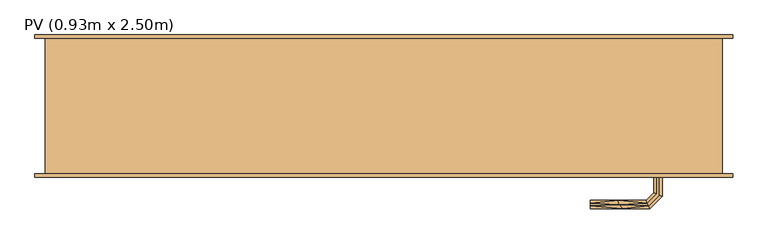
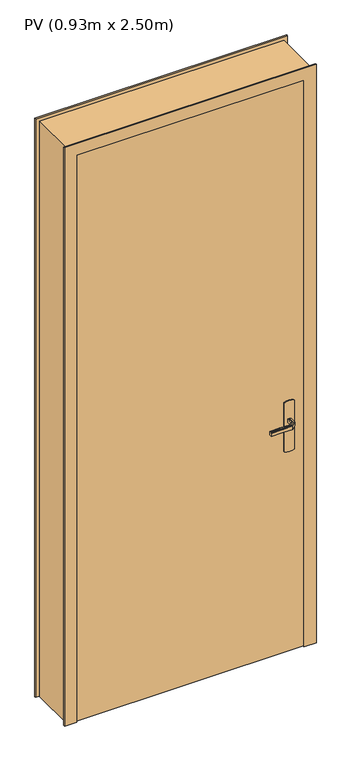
"""IFC4 building model written with IfcOpenShell, lengths in millimetres: door geometry, PV (0.93m x 2.50m)."""

from ifc_helpers import new_model, si_unit, frame, origin, origin_with_axes, place, context, project, spatial, polyline, outline, extrude, faceted_brep, source, transform, mapped, element, save


def pv_0_93m_x_2_50m_6ed395ac(model_context):
    return source(origin(), model_context, "Body", "SolidModel", [
        faceted_brep([(972.9747013, 45.0, 992.2195592), (977.0252987, 45.0, 992.2195592), (981.0, 45.0, 993.0), (981.0, 45.0, 1007.0), (977.0252987, 45.0, 1007.7804408), (972.9747013, 45.0, 1007.7804408), (969.0, 45.0, 1007.0), (969.0, 45.0, 993.0), (969.0, 67.4852045, 1007.0), (969.0, 67.4852045, 993.0), (972.9747013, 69.1315797, 1007.7804408), (977.0252987, 70.8093921, 1007.7804408), (960.8389062, 86.9957845, 1007.7804408), (959.1610938, 82.9451872, 1007.7804408), (981.0, 72.4557673, 1007.0), (981.0, 72.4557673, 993.0), (977.0252987, 70.8093921, 992.2195592), (972.9747013, 69.1315797, 992.2195592), (959.1610938, 82.9451872, 992.2195592), (960.8389062, 86.9957845, 992.2195592), (957.5147186, 78.9704859, 1007.0), (957.5147186, 78.9704859, 993.0), (962.4852814, 90.9704859, 1007.0), (962.4852814, 90.9704859, 993.0), (874.9542163, 82.9451872, 1007.7804408), (874.9542163, 86.9957845, 1007.7804408), (874.9542163, 90.9704859, 1007.0), (874.9542163, 90.9704859, 993.0), (874.9542163, 86.9957845, 992.2195592), (874.9542163, 82.9451872, 992.2195592), (874.9542163, 78.9704859, 993.0), (874.9542163, 78.9704859, 1007.0), (916.2344675, 78.9704859, 1007.0), (916.2344794, 78.9704859, 993.0), (917.0576551, 84.9704859, 1007.8786868), (922.5547942, 90.9704859, 1007.0), (922.5547957, 90.9704859, 993.0), (917.0576549, 84.9704858, 992.1213132)], [[[0, 1, 2, 3, 4, 5, 6, 7]], [[8, 9, 7, 6]], [[5, 10, 8, 6]], [[5, 4, 11, 12, 13, 10]], [[3, 14, 11, 4]], [[14, 3, 2, 15]], [[2, 1, 16, 15]], [[1, 0, 17, 18, 19, 16]], [[0, 7, 9, 17]], [[20, 21, 9, 8]], [[8, 10, 13, 20]], [[14, 22, 12, 11]], [[23, 22, 14, 15]], [[15, 16, 19, 23]], [[17, 9, 21, 18]], [[24, 25, 26, 27, 28, 29, 30, 31]], [[21, 20, 32, 31, 30, 33]], [[34, 24, 32]], [[25, 34, 35]], [[13, 32, 20]], [[24, 31, 32]], [[25, 35, 26]], [[35, 12, 22]], [[34, 12, 35]], [[34, 13, 12]], [[34, 32, 13]], [[24, 34, 25]], [[22, 23, 36, 27, 26, 35]], [[37, 28, 36]], [[36, 28, 27]], [[36, 23, 19]], [[18, 33, 37]], [[33, 18, 21]], [[30, 29, 33]], [[37, 29, 28]], [[37, 33, 29]], [[37, 36, 19]], [[18, 37, 19]]]),
        faceted_brep([(972.9747013, -5.0, 1007.7804408), (977.0252987, -5.0, 1007.7804408), (981.0, -5.0, 1007.0), (981.0, -5.0, 993.0), (977.0252987, -5.0, 992.2195592), (972.9747013, -5.0, 992.2195592), (969.0, -5.0, 993.0), (969.0, -5.0, 1007.0), (977.0252987, -31.0045755, 1007.7804408), (981.0, -32.6509507, 1007.0), (972.9747013, -29.3267632, 1007.7804408), (959.2986025, -43.002862, 1007.7804408), (960.9764148, -47.0534593, 1007.7804408), (969.0, -27.680388, 1007.0), (969.0, -27.680388, 993.0), (972.9747013, -29.3267632, 992.2195592), (977.0252987, -31.0045755, 992.2195592), (960.9764148, -47.0534593, 992.2195592), (959.2986025, -43.002862, 992.2195592), (981.0, -32.6509507, 993.0), (962.62279, -51.0281607, 1007.0), (957.6522273, -39.0281607, 1007.0), (957.6522273, -39.0281607, 993.0), (962.62279, -51.0281607, 993.0), (874.9813594, -51.0281607, 1007.0), (874.9813594, -47.0534593, 1007.7804408), (874.9813594, -43.002862, 1007.7804408), (874.9813594, -39.0281607, 1007.0), (874.9813594, -39.0281607, 993.0), (874.9813594, -43.002862, 992.2195592), (874.9813594, -47.0534593, 992.2195592), (874.9813594, -51.0281607, 993.0), (917.1399809, -45.0281607, 1007.8786868), (922.6923028, -51.0281607, 1007.0), (916.3167933, -39.0281607, 1007.0), (916.3167933, -39.0281607, 993.0), (917.1399811, -45.0281608, 992.1213132), (922.6923104, -51.0281607, 993.0)], [[[0, 1, 2, 3, 4, 5, 6, 7]], [[2, 1, 8, 9]], [[1, 0, 10, 11, 12, 8]], [[0, 7, 13, 10]], [[14, 13, 7, 6]], [[5, 15, 14, 6]], [[5, 4, 16, 17, 18, 15]], [[3, 19, 16, 4]], [[9, 19, 3, 2]], [[9, 8, 12, 20]], [[10, 13, 21, 11]], [[22, 21, 13, 14]], [[14, 15, 18, 22]], [[16, 19, 23, 17]], [[20, 23, 19, 9]], [[24, 25, 26, 27, 28, 29, 30, 31]], [[32, 25, 33]], [[33, 25, 24]], [[33, 20, 12]], [[11, 34, 32]], [[34, 11, 21]], [[27, 26, 34]], [[32, 26, 25]], [[32, 34, 26]], [[32, 33, 12]], [[11, 32, 12]], [[21, 22, 35, 28, 27, 34]], [[36, 29, 35]], [[30, 36, 37]], [[18, 35, 22]], [[29, 28, 35]], [[30, 37, 31]], [[37, 17, 23]], [[36, 17, 37]], [[36, 18, 17]], [[36, 35, 18]], [[29, 36, 30]], [[23, 20, 33, 24, 31, 37]]]),
        extrude(outline(polyline([(870.0, 995.0), (1080.0, 995.0), (1083.9960169, 985.3527618), (1085.3589838, 975.0), (1083.9960169, 964.6472382), (1080.0, 955.0), (870.0, 955.0), (866.0039831, 964.6472382), (864.6410162, 975.0), (866.0039831, 985.3527618), (870.0, 995.0)])), frame((0.0, 40.0, 0.0), z_axis=(0.0, 1.0, 0.0), x_axis=(0.0, 0.0, 1.0)), (0.0, 0.0, 1.0), 5.0),
        extrude(outline(polyline([(870.0, 995.0), (1080.0, 995.0), (1083.9960169, 985.3527618), (1085.3589838, 975.0), (1083.9960169, 964.6472382), (1080.0, 955.0), (870.0, 955.0), (866.0039831, 964.6472382), (864.6410162, 975.0), (866.0039831, 985.3527618), (870.0, 995.0)])), frame((0.0, -5.0, 0.0), z_axis=(0.0, 1.0, 0.0), x_axis=(0.0, 0.0, 1.0)), (0.0, 0.0, 1.0), 5.0),
        extrude(outline(polyline([(1035.0, 40.0), (1035.0, 0.0), (105.0, 0.0), (105.0, 40.0), (1035.0, 40.0)])), origin_with_axes(), (0.0, 0.0, 1.0), 2450.0),
        faceted_brep([(1070.0, 200.0, 0.0), (1070.0, 0.0, 0.0), (1085.0, 0.0, 0.0), (1085.0, -5.0, 0.0), (1035.0, -5.0, 0.0), (1035.0, 40.0, 0.0), (1020.0, 40.0, 0.0), (1020.0, 205.0, 0.0), (1085.0, 205.0, 0.0), (1085.0, 200.0, 0.0), (1085.0, 200.0, 2500.0), (55.0, 200.0, 2500.0), (55.0, 200.0, 0.0), (70.0, 200.0, 0.0), (70.0, 200.0, 2485.0), (1070.0, 200.0, 2485.0), (1085.0, 205.0, 2500.0), (1020.0, 205.0, 2435.0), (120.0, 205.0, 2435.0), (120.0, 205.0, 0.0), (55.0, 205.0, 0.0), (55.0, 205.0, 2500.0), (1020.0, 40.0, 2435.0), (1035.0, 40.0, 2450.0), (105.0, 40.0, 2450.0), (105.0, 40.0, 0.0), (120.0, 40.0, 0.0), (120.0, 40.0, 2435.0), (1035.0, -5.0, 2450.0), (1085.0, -5.0, 2500.0), (55.0, -5.0, 2500.0), (55.0, -5.0, 0.0), (105.0, -5.0, 0.0), (105.0, -5.0, 2450.0), (1085.0, 0.0, 2500.0), (1070.0, 0.0, 2485.0), (70.0, 0.0, 2485.0), (70.0, 0.0, 0.0), (55.0, 0.0, 0.0), (55.0, 0.0, 2500.0)], [[[0, 1, 2, 3, 4, 5, 6, 7, 8, 9]], [[9, 10, 11, 12, 13, 14, 15, 0]], [[8, 16, 10, 9]], [[7, 17, 18, 19, 20, 21, 16, 8]], [[7, 6, 22, 17]], [[5, 23, 24, 25, 26, 27, 22, 6]], [[5, 4, 28, 23]], [[3, 29, 30, 31, 32, 33, 28, 4]], [[2, 34, 29, 3]], [[1, 35, 36, 37, 38, 39, 34, 2]], [[0, 15, 35, 1]], [[14, 13, 37, 36]], [[13, 12, 20, 19, 26, 25, 32, 31, 38, 37]], [[21, 20, 12, 11]], [[27, 26, 19, 18]], [[33, 32, 25, 24]], [[39, 38, 31, 30]], [[16, 21, 11, 10]], [[22, 27, 18, 17]], [[28, 33, 24, 23]], [[34, 39, 30, 29]], [[15, 14, 36, 35]]]),
    ])


if __name__ == "__main__":
    model = new_model("IFC4")
    model_context = context("Model", 3, world=origin())
    ifc_project = project(units=[si_unit("LENGTHUNIT", "METRE", prefix="MILLI")], contexts=[model_context])
    site = spatial("IfcSite", under=ifc_project)
    building = spatial("IfcBuilding", under=site)
    placement = place(None, origin())
    pv_0_93m_x_2_50m_shape = pv_0_93m_x_2_50m_6ed395ac(model_context)
    element("IfcDoor", 1, ObjectType="PV (0.93m x 2.50m)", at=placement, inside=building, context=model_context, shape_type="MappedRepresentation", body=[
        mapped(pv_0_93m_x_2_50m_shape, transform((0.0, 0.0, 0.0), x_axis=(1.0, 0.0, 0.0), y_axis=(0.0, 1.0, 0.0), z_axis=(0.0, 0.0, 1.0))),
    ])
    save(model, "model.ifc")
